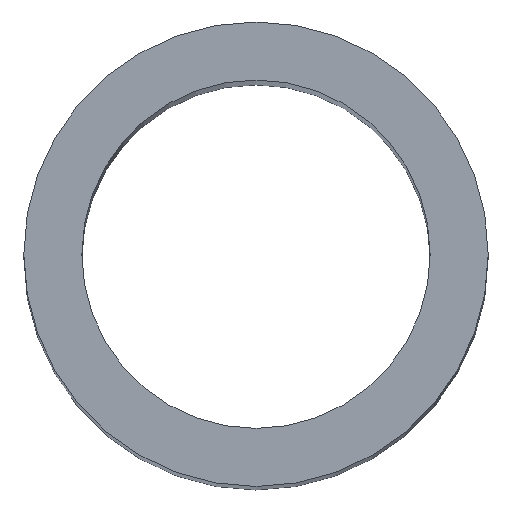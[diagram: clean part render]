
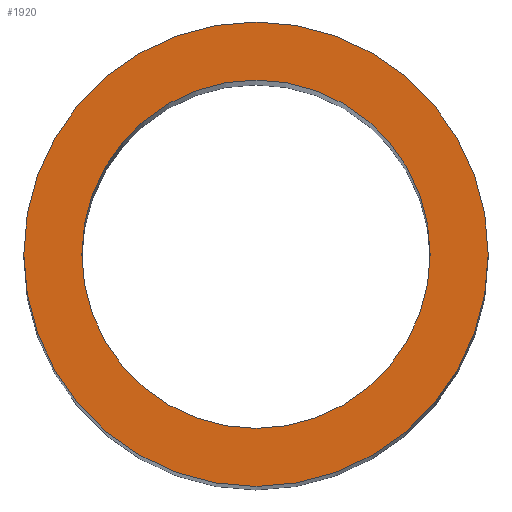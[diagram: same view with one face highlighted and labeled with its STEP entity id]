
A CAD part, top view. The second image highlights one B-rep face of the part: STEP entity #1920.
In plain terms, the highlighted planar face has unit normal (0, 0, 1).
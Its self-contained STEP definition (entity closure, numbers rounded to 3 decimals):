
#1570=CARTESIAN_POINT('',(0.,0.,120.));
#1580=DIRECTION('',(0.,0.,1.));
#1590=DIRECTION('',(1.,0.,0.));
#1600=AXIS2_PLACEMENT_3D('',#1570,#1580,#1590);
#1610=PLANE('',#1600);
#1620=CARTESIAN_POINT('',(38.995,52.201,120.));
#1630=DIRECTION('',(0.,0.,1.));
#1640=DIRECTION('',(1.,0.,0.));
#1650=AXIS2_PLACEMENT_3D('',#1620,#1630,#1640);
#1660=CIRCLE('',#1650,10.);
#1670=CARTESIAN_POINT('',(48.995,52.201,120.));
#1680=VERTEX_POINT('',#1670);
#1690=CARTESIAN_POINT('',(28.995,52.201,120.));
#1700=VERTEX_POINT('',#1690);
#1710=EDGE_CURVE('',#1680,#1700,#1660,.T.);
#1720=ORIENTED_EDGE('',*,*,#1710,.T.);
#1730=EDGE_CURVE('',#1700,#1680,#1660,.T.);
#1740=ORIENTED_EDGE('',*,*,#1730,.T.);
#1750=EDGE_LOOP('',(#1740,#1720));
#1760=FACE_OUTER_BOUND('',#1750,.T.);
#1770=CARTESIAN_POINT('',(38.995,52.201,120.));
#1780=DIRECTION('',(0.,0.,1.));
#1790=DIRECTION('',(1.,0.,0.));
#1800=AXIS2_PLACEMENT_3D('',#1770,#1780,#1790);
#1810=CIRCLE('',#1800,7.5);
#1820=CARTESIAN_POINT('',(46.495,52.201,120.));
#1830=VERTEX_POINT('',#1820);
#1840=CARTESIAN_POINT('',(31.495,52.201,120.));
#1850=VERTEX_POINT('',#1840);
#1860=EDGE_CURVE('',#1830,#1850,#1810,.T.);
#1870=ORIENTED_EDGE('',*,*,#1860,.F.);
#1880=EDGE_CURVE('',#1850,#1830,#1810,.T.);
#1890=ORIENTED_EDGE('',*,*,#1880,.F.);
#1900=EDGE_LOOP('',(#1890,#1870));
#1910=FACE_BOUND('',#1900,.T.);
#1920=ADVANCED_FACE('',(#1760,#1910),#1610,.T.);
